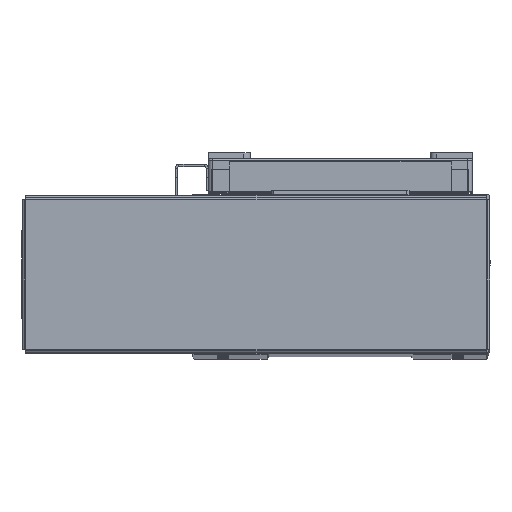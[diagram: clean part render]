
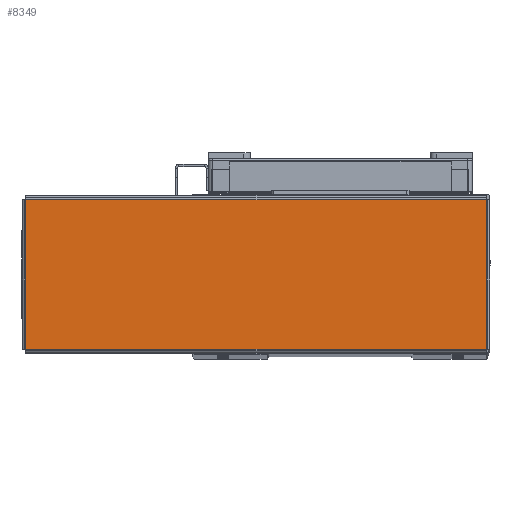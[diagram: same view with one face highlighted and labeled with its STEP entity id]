
A CAD part, top view. The second image highlights one B-rep face of the part: STEP entity #8349.
In plain terms, the highlighted planar face has unit normal (0, 0, 1) as drawn and (0, -1, 0) by its records, which use the part's own axes.
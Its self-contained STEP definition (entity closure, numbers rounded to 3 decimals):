
#2080 = VERTEX_POINT ( 'NONE', #14776 ) ;
#2096 = VERTEX_POINT ( 'NONE', #14833 ) ;
#2108 = VERTEX_POINT ( 'NONE', #14885 ) ;
#2332 = VERTEX_POINT ( 'NONE', #14923 ) ;
#4419 = EDGE_CURVE ( 'NONE', #2080, #2096, #61968, .T. ) ;
#4431 = EDGE_CURVE ( 'NONE', #2332, #2080, #62020, .T. ) ;
#4444 = EDGE_CURVE ( 'NONE', #2096, #2108, #62043, .T. ) ;
#4469 = EDGE_CURVE ( 'NONE', #2108, #2332, #62079, .T. ) ;
#8349 = ADVANCED_FACE ( 'NONE', ( #53701 ), #40425, .F. ) ;
#14776 = CARTESIAN_POINT ( 'NONE',  ( 103.763, -1., 33.763 ) ) ;
#14833 = CARTESIAN_POINT ( 'NONE',  ( -103.763, -1., 33.763 ) ) ;
#14885 = CARTESIAN_POINT ( 'NONE',  ( -103.763, -1., -33.763 ) ) ;
#14923 = CARTESIAN_POINT ( 'NONE',  ( 103.763, -1., -33.763 ) ) ;
#17975 = EDGE_LOOP ( 'NONE', ( #27474, #27428, #27320, #27376 ) ) ;
#27320 = ORIENTED_EDGE ( 'NONE', *, *, #4469, .T. ) ;
#27376 = ORIENTED_EDGE ( 'NONE', *, *, #4431, .T. ) ;
#27428 = ORIENTED_EDGE ( 'NONE', *, *, #4444, .T. ) ;
#27474 = ORIENTED_EDGE ( 'NONE', *, *, #4419, .T. ) ;
#28674 = CARTESIAN_POINT ( 'NONE',  ( 103.793, -1., 33.763 ) ) ;
#28695 = DIRECTION ( 'NONE',  ( -1., 0., 0. ) ) ;
#28704 = CARTESIAN_POINT ( 'NONE',  ( -103.763, -1., 33.793 ) ) ;
#28709 = CARTESIAN_POINT ( 'NONE',  ( 103.763, -1., -33.793 ) ) ;
#28741 = DIRECTION ( 'NONE',  ( 0., 0., 1. ) ) ;
#28755 = DIRECTION ( 'NONE',  ( 0., 0., -1. ) ) ;
#28795 = DIRECTION ( 'NONE',  ( 1., 0., 0. ) ) ;
#28831 = CARTESIAN_POINT ( 'NONE',  ( -103.793, -1., -33.763 ) ) ;
#40425 = PLANE ( 'NONE',  #41125 ) ;
#40435 = DIRECTION ( 'NONE',  ( 0., 0., 1. ) ) ;
#40461 = CARTESIAN_POINT ( 'NONE',  ( 0., -1., 0. ) ) ;
#40470 = DIRECTION ( 'NONE',  ( 0., 1., 0. ) ) ;
#41125 = AXIS2_PLACEMENT_3D ( 'NONE', #40461, #40470, #40435 ) ;
#53701 = FACE_OUTER_BOUND ( 'NONE', #17975, .T. ) ;
#61968 = LINE ( 'NONE', #28674, #61972 ) ;
#61972 = VECTOR ( 'NONE', #28695, 1000. ) ;
#62020 = LINE ( 'NONE', #28709, #62025 ) ;
#62025 = VECTOR ( 'NONE', #28741, 1000. ) ;
#62037 = VECTOR ( 'NONE', #28755, 1000. ) ;
#62043 = LINE ( 'NONE', #28704, #62037 ) ;
#62079 = LINE ( 'NONE', #28831, #62093 ) ;
#62093 = VECTOR ( 'NONE', #28795, 1000. ) ;
